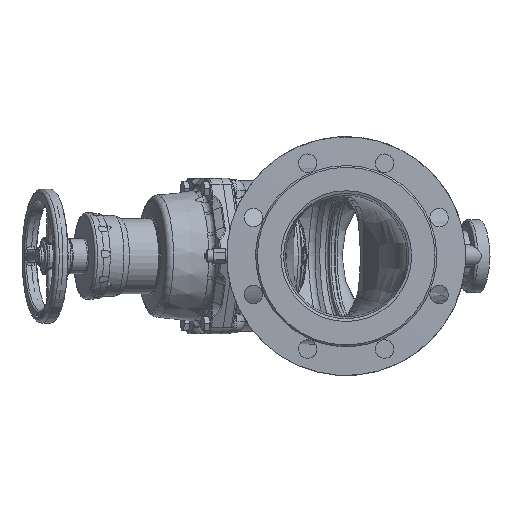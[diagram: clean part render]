
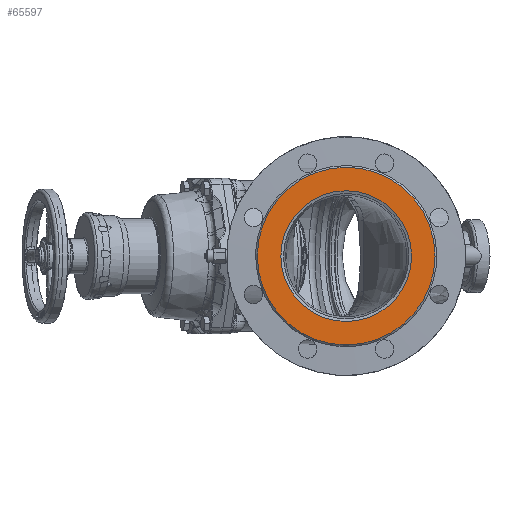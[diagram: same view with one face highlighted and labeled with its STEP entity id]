
A CAD part, left-side view. The second image highlights one B-rep face of the part: STEP entity #65597.
In plain terms, the highlighted planar face has unit normal (-1, 0, 0).
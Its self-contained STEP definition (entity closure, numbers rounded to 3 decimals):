
#3160 = CARTESIAN_POINT ( 'NONE',  ( -227., 0., 78. ) ) ;
#3164 = CARTESIAN_POINT ( 'NONE',  ( -227., 0., 106. ) ) ;
#3166 = VERTEX_POINT ( 'NONE', #3160 ) ;
#3169 = VERTEX_POINT ( 'NONE', #3164 ) ;
#65502 = EDGE_LOOP ( 'NONE', ( #65627 ) ) ;
#65597 = ADVANCED_FACE ( 'NONE', ( #86863, #86877 ), #86827, .T. ) ;
#65608 = EDGE_LOOP ( 'NONE', ( #65641 ) ) ;
#65613 = EDGE_CURVE ( 'NONE', #3169, #3169, #87039, .T. ) ;
#65627 = ORIENTED_EDGE ( 'NONE', *, *, #65613, .T. ) ;
#65641 = ORIENTED_EDGE ( 'NONE', *, *, #65646, .T. ) ;
#65646 = EDGE_CURVE ( 'NONE', #3166, #3166, #87212, .T. ) ;
#86816 = CARTESIAN_POINT ( 'NONE',  ( -227., -75., 0. ) ) ;
#86827 = PLANE ( 'NONE',  #86878 ) ;
#86855 = DIRECTION ( 'NONE',  ( 0., 0., 1. ) ) ;
#86856 = DIRECTION ( 'NONE',  ( -1., 0., 0. ) ) ;
#86863 = FACE_BOUND ( 'NONE', #65608, .T. ) ;
#86877 = FACE_OUTER_BOUND ( 'NONE', #65502, .T. ) ;
#86878 = AXIS2_PLACEMENT_3D ( 'NONE', #86816, #86856, #86855 ) ;
#86962 = CARTESIAN_POINT ( 'NONE',  ( -227., 0., 0. ) ) ;
#87025 = DIRECTION ( 'NONE',  ( 0., 0., 1. ) ) ;
#87028 = DIRECTION ( 'NONE',  ( -1., 0., 0. ) ) ;
#87035 = AXIS2_PLACEMENT_3D ( 'NONE', #86962, #87028, #87025 ) ;
#87039 = CIRCLE ( 'NONE', #87035, 106. ) ;
#87118 = AXIS2_PLACEMENT_3D ( 'NONE', #87210, #87208, #87206 ) ;
#87206 = DIRECTION ( 'NONE',  ( 0., 0., 1. ) ) ;
#87208 = DIRECTION ( 'NONE',  ( 1., 0., 0. ) ) ;
#87210 = CARTESIAN_POINT ( 'NONE',  ( -227., 0., 0. ) ) ;
#87212 = CIRCLE ( 'NONE', #87118, 78. ) ;
